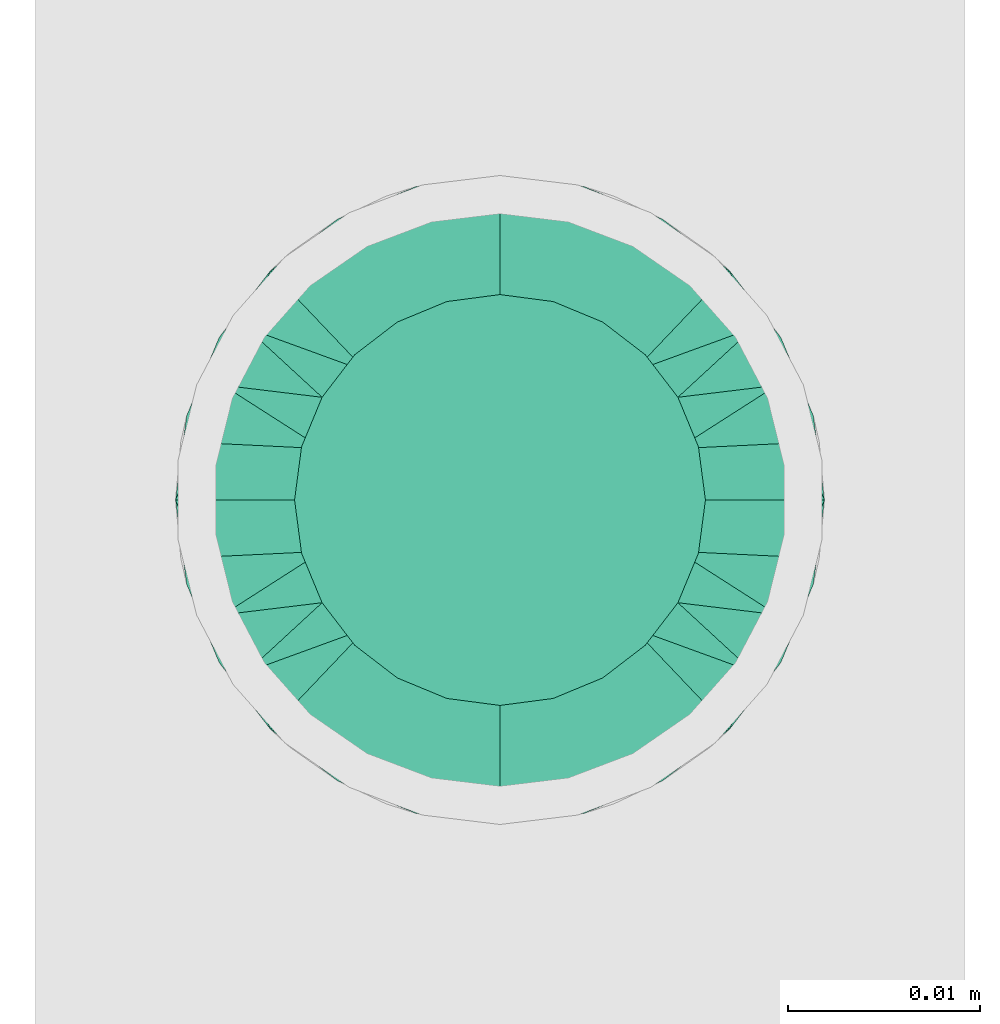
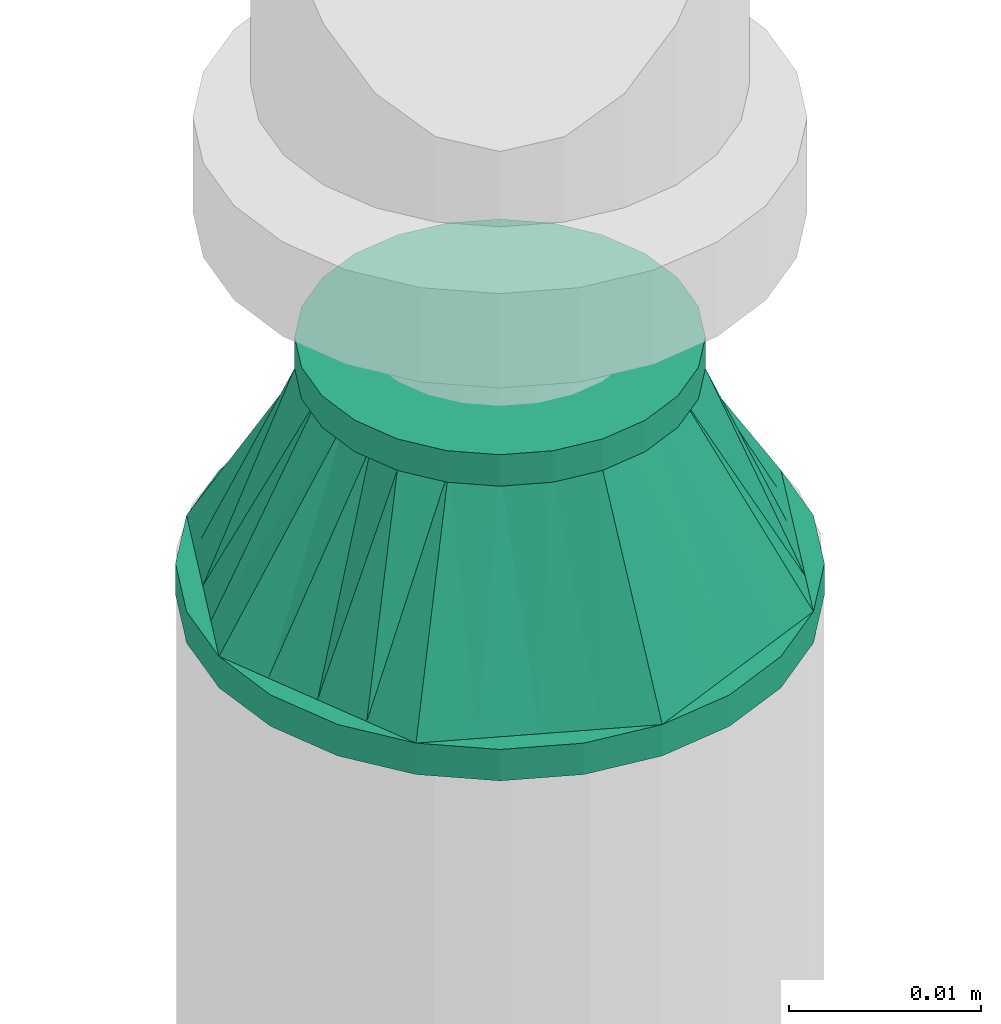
# One storey, part 40 of 63: 1 flow fitting.
"""IFC2X3 building model written with IfcOpenShell, lengths in millimetres."""

from ifc_helpers import new_model, entity, si_unit, converted_unit, derived_unit, direction, frame, origin_with_axes, place, context, subcontext, project, spatial, open_shell, surface_model, source, transform, mapped, type_object, element, save


model = new_model("IFC2X3")

# Units and contexts
model_context = context("Model", 3, precision=0.01, world=frame((0.0, 4.29681676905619e-09, 0.0)), true_north=direction((4.01073788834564e-13, 1.0)))
plan_context = context("Plan", 3, precision=0.01, world=frame((0.0, 4.29681676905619e-09, 0.0)), true_north=direction((4.01073788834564e-13, 1.0)))
body_context = subcontext(model_context, "Body", "Model", "MODEL_VIEW")
ifc_project = project(units=[converted_unit("PLANEANGLEUNIT", "DEGREE", entity("IfcPositiveLengthMeasure", 0.0174532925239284), si_unit("PLANEANGLEUNIT", "RADIAN"), dimensions=[0, 0, 0, 0, 0, 0, 0]), si_unit("AREAUNIT", "SQUARE_METRE"), si_unit("LENGTHUNIT", "METRE", prefix="MILLI"), si_unit("MASSUNIT", "GRAM", prefix="KILO"), si_unit("POWERUNIT", "WATT"), si_unit("PRESSUREUNIT", "PASCAL", prefix="KILO"), si_unit("FORCEUNIT", "NEWTON", prefix="KILO"), si_unit("ELECTRICVOLTAGEUNIT", "VOLT"), si_unit("ELECTRICCURRENTUNIT", "AMPERE"), si_unit("THERMODYNAMICTEMPERATUREUNIT", "DEGREE_CELSIUS"), si_unit("TIMEUNIT", "SECOND"), si_unit("VOLUMEUNIT", "CUBIC_METRE"), derived_unit("LINEARVELOCITYUNIT", [(si_unit("LENGTHUNIT", "METRE"), 1), (si_unit("TIMEUNIT", "SECOND"), -1)]), derived_unit("VOLUMETRICFLOWRATEUNIT", [(si_unit("VOLUMEUNIT", "CUBIC_METRE"), 1), (si_unit("TIMEUNIT", "SECOND"), -1)]), derived_unit("THERMALTRANSMITTANCEUNIT", [(si_unit("POWERUNIT", "WATT"), 1), (si_unit("THERMODYNAMICTEMPERATUREUNIT", "KELVIN"), -1), (si_unit("AREAUNIT", "SQUARE_METRE"), -1)]), derived_unit("SOUNDPRESSUREUNIT", [(si_unit("PRESSUREUNIT", "PASCAL"), 1)])], contexts=[model_context, plan_context])

# Site, building, storey
site_placement = place(None, frame((0.0, -4.29681676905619e-09, 0.0), z_axis=(0.0, 0.0, 1.0), x_axis=(1.0, 0.0, 0.0)))
site = spatial("IfcSite", under=ifc_project, at=site_placement, CompositionType="ELEMENT")
building_placement = place(site_placement, frame((0.0, 4.29681676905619e-09, 0.0), z_axis=(0.0, 0.0, 1.0), x_axis=(1.0, 0.0, 0.0)))
building = spatial("IfcBuilding", under=site, at=building_placement, Name="mc-building", CompositionType="ELEMENT")
storey_placement = place(building_placement, frame((0.0, 0.0, 207370.0), z_axis=(0.0, 0.0, 1.0), x_axis=(1.0, 0.0, 0.0)))
storey = spatial("IfcBuildingStorey", under=building, at=storey_placement, Name="Nivå E", CompositionType="ELEMENT", Elevation=207370.0)

# Flow fitting
pipe_fitting_type = type_object("IfcPipeFittingType", Name="magi_pipe_fe_reducer_centric_short_NOR", PredefinedType="TRANSITION")
shared_shape = source(origin_with_axes(), body_context, "Body", "SurfaceModel", [
    surface_model("IfcShellBasedSurfaceModel", [(14.4, 5.35, -9.26647), (14.4, 0.0, -10.7), (14.4, 2.76936, -10.33541), (14.4, 10.33541, -2.76936), (14.4, 7.56604, -7.56604), (14.4, -10.33541, -2.76936), (14.4, 9.26647, -5.35), (14.4, 0.0, 10.7), (14.4, -5.35, -9.26647), (14.4, -2.76936, -10.33541), (14.4, -7.56604, -7.56604), (14.4, -9.26647, -5.35), (14.4, 10.7, 0.0), (14.4, 10.33541, 2.76936), (14.4, 9.26647, 5.35), (14.4, 7.56604, 7.56604), (14.4, 2.76936, 10.33541), (14.4, 5.35, 9.26647), (14.4, -10.33541, 2.76936), (14.4, -7.56604, 7.56604), (14.4, -9.26647, 5.35), (14.4, -10.7, 0.0), (14.4, -2.76936, 10.33541), (14.4, -5.35, 9.26647), (12.4, 2.76936, 10.33541), (12.4, -10.33541, -2.76936), (12.4, 0.0, 10.7), (12.4, 5.35, 9.26647), (12.4, 7.56604, 7.56604), (12.4, 9.26647, 5.35), (12.4, 10.33541, 2.76936), (12.4, -10.33541, 2.76936), (12.4, -2.76936, 10.33541), (12.4, -7.56604, 7.56604), (12.4, -5.35, 9.26647), (12.4, -9.26647, 5.35), (12.4, -10.7, 0.0), (12.4, 10.33541, -2.76936), (12.4, 5.35, -9.26647), (12.4, 9.26647, -5.35), (12.4, 7.56604, -7.56604), (12.4, 2.76936, -10.33541), (12.4, -9.26647, -5.35), (12.4, -5.35, -9.26647), (12.4, -7.56604, -7.56604), (12.4, 0.0, -10.7), (12.4, -2.76936, -10.33541), (12.4, 10.7, 0.0), (-2.0, 11.9501, 11.9501), (-2.0, 0.0, 16.9), (-2.0, 4.37404, 16.32415), (-2.0, 8.45, 14.63583), (-2.0, 14.63583, 8.45), (-2.0, 16.32415, 4.37404), (-2.0, -16.32415, 4.37404), (-2.0, -8.45, 14.63583), (-2.0, -14.63583, 8.45), (-2.0, -11.9501, 11.9501), (-2.0, -4.37404, 16.32415), (-2.0, -16.32415, -4.37404), (-2.0, -16.9, 0.0), (-2.0, -8.45, -14.63583), (-2.0, 16.32415, -4.37404), (-2.0, 11.9501, -11.9501), (-2.0, 14.63583, -8.45), (-2.0, 8.45, -14.63583), (-2.0, 4.37404, -16.32415), (-2.0, 0.0, -16.9), (-2.0, -11.9501, -11.9501), (-2.0, -14.63583, -8.45), (-2.0, -4.37404, -16.32415), (-2.0, 16.9, 0.0), (0.0, 4.37404, -16.32415), (0.0, 8.45, -14.63583), (0.0, 11.9501, -11.9501), (0.0, 0.0, -16.9), (0.0, 16.32415, -4.37404), (0.0, 16.32415, 4.37404), (0.0, 14.63583, -8.45), (0.0, -8.45, -14.63583), (0.0, -4.37404, -16.32415), (0.0, -11.9501, -11.9501), (0.0, -16.32415, -4.37404), (0.0, -14.63583, -8.45), (0.0, -16.32415, 4.37404), (0.0, 16.9, 0.0), (0.0, 14.63583, 8.45), (0.0, 11.9501, 11.9501), (0.0, 4.37404, 16.32415), (0.0, 8.45, 14.63583), (0.0, 0.0, 16.9), (0.0, -14.63583, 8.45), (0.0, -16.9, 0.0), (0.0, -8.45, 14.63583), (0.0, -11.9501, 11.9501), (0.0, -4.37404, 16.32415), (12.4, 9.3625, -2.31662), (0.0, 14.42505, -5.97505), (0.0, 15.66253, -2.98753), (12.4, -6.6875, -6.94985), (0.0, -13.18758, -8.96258), (0.0, 2.98753, -15.66253), (12.4, 0.0, -9.26647), (12.4, 6.6875, -6.94985), (0.0, 8.96258, -13.18758), (12.4, -9.3625, -2.31662), (0.0, -15.66253, -2.98753), (0.0, -14.42505, -5.97505), (0.0, 5.97505, -14.42505), (0.0, -2.98753, -15.66253), (0.0, -8.96258, -13.18758), (0.0, 13.18758, -8.96258), (12.4, 8.025, -4.63324), (12.4, -2.675, -9.26647), (12.4, 2.675, -9.26647), (0.0, -5.97505, -14.42505), (12.4, -8.025, -4.63324), (12.4, -9.3625, 2.31662), (0.0, -14.42505, 5.97505), (0.0, -15.66253, 2.98753), (12.4, 6.6875, 6.94985), (0.0, 13.18758, 8.96258), (0.0, -2.98753, 15.66253), (12.4, 0.0, 9.26647), (12.4, -6.6875, 6.94985), (0.0, -8.96258, 13.18758), (12.4, 9.3625, 2.31662), (0.0, 15.66253, 2.98753), (0.0, 14.42505, 5.97505), (0.0, -5.97505, 14.42505), (0.0, 2.98753, 15.66253), (0.0, 8.96258, 13.18758), (0.0, -13.18758, 8.96258), (12.4, -8.025, 4.63324), (12.4, 2.675, 9.26647), (12.4, -2.675, 9.26647), (0.0, 5.97505, 14.42505), (12.4, 8.025, 4.63324)], [open_shell([[[0, 1, 2]], [[3, 0, 4]], [[5, 0, 3]], [[3, 4, 6]], [[7, 5, 3]], [[1, 8, 9]], [[1, 0, 8]], [[10, 5, 11]], [[5, 10, 8]], [[0, 5, 8]], [[3, 12, 13]], [[13, 14, 15]], [[13, 15, 16]], [[7, 3, 16]], [[16, 15, 17]], [[7, 18, 5]], [[18, 19, 20]], [[21, 5, 18]], [[19, 22, 23]], [[22, 19, 18]], [[7, 22, 18]], [[13, 16, 3]], [[24, 25, 26]], [[27, 25, 24]], [[28, 29, 30]], [[28, 25, 27]], [[31, 26, 25]], [[32, 33, 34]], [[33, 32, 31]], [[33, 31, 35]], [[32, 26, 31]], [[31, 25, 36]], [[30, 37, 28]], [[25, 28, 37]], [[38, 37, 39]], [[37, 38, 25]], [[38, 39, 40]], [[41, 25, 38]], [[42, 43, 44]], [[43, 42, 25]], [[43, 45, 46]], [[43, 25, 41]], [[41, 45, 43]], [[37, 30, 47]], [[25, 5, 36]], [[42, 11, 25]], [[8, 44, 43]], [[42, 44, 10]], [[9, 43, 46]], [[25, 11, 5]], [[5, 21, 36]], [[9, 8, 43]], [[10, 44, 8]], [[10, 11, 42]], [[1, 9, 46]], [[46, 45, 1]], [[41, 2, 45]], [[38, 0, 41]], [[6, 40, 39]], [[38, 40, 4]], [[3, 39, 37]], [[38, 4, 0]], [[0, 2, 41]], [[12, 3, 37]], [[6, 39, 3]], [[6, 4, 40]], [[47, 12, 37]], [[45, 2, 1]], [[30, 13, 47]], [[29, 14, 30]], [[17, 28, 27]], [[29, 28, 15]], [[16, 27, 24]], [[30, 14, 13]], [[13, 12, 47]], [[16, 17, 27]], [[15, 28, 17]], [[15, 14, 29]], [[7, 16, 24]], [[24, 26, 7]], [[32, 22, 26]], [[34, 23, 32]], [[20, 33, 35]], [[34, 33, 19]], [[18, 35, 31]], [[34, 19, 23]], [[23, 22, 32]], [[21, 18, 31]], [[20, 35, 18]], [[20, 19, 33]], [[36, 21, 31]], [[26, 22, 7]], [[48, 49, 50]], [[48, 50, 51]], [[48, 52, 53]], [[48, 53, 49]], [[49, 53, 54]], [[55, 56, 57]], [[55, 58, 49]], [[56, 55, 49]], [[49, 54, 56]], [[54, 59, 60]], [[54, 53, 61]], [[53, 62, 63]], [[63, 62, 64]], [[63, 65, 66]], [[61, 53, 63]], [[67, 63, 66]], [[59, 68, 69]], [[68, 59, 61]], [[61, 67, 70]], [[59, 54, 61]], [[63, 67, 61]], [[53, 71, 62]], [[72, 73, 74]], [[75, 72, 74]], [[74, 76, 77]], [[76, 74, 78]], [[74, 77, 79]], [[75, 79, 80]], [[75, 74, 79]], [[81, 82, 83]], [[82, 81, 79]], [[79, 84, 82]], [[77, 76, 85]], [[77, 86, 87]], [[77, 87, 88]], [[88, 84, 79]], [[88, 87, 89]], [[84, 88, 90]], [[90, 91, 84]], [[92, 82, 84]], [[91, 93, 94]], [[91, 90, 93]], [[93, 90, 95]], [[79, 77, 88]], [[59, 82, 60]], [[69, 83, 59]], [[79, 68, 61]], [[69, 68, 81]], [[80, 61, 70]], [[59, 83, 82]], [[82, 92, 60]], [[80, 79, 61]], [[81, 68, 79]], [[81, 83, 69]], [[75, 80, 70]], [[70, 67, 75]], [[66, 72, 67]], [[65, 73, 66]], [[78, 63, 64]], [[65, 63, 74]], [[76, 64, 62]], [[65, 74, 73]], [[73, 72, 66]], [[85, 76, 62]], [[78, 64, 76]], [[78, 74, 63]], [[71, 85, 62]], [[67, 72, 75]], [[53, 77, 71]], [[52, 86, 53]], [[89, 48, 51]], [[52, 48, 87]], [[88, 51, 50]], [[53, 86, 77]], [[77, 85, 71]], [[88, 89, 51]], [[87, 48, 89]], [[87, 86, 52]], [[90, 88, 50]], [[50, 49, 90]], [[58, 95, 49]], [[55, 93, 58]], [[91, 57, 56]], [[55, 57, 94]], [[84, 56, 54]], [[55, 94, 93]], [[93, 95, 58]], [[92, 84, 54]], [[91, 56, 84]], [[91, 94, 57]], [[60, 92, 54]], [[49, 95, 90]], [[27, 34, 47]], [[47, 34, 43]], [[43, 38, 47]], [[43, 34, 36]], [[90, 87, 94]], [[92, 94, 87]], [[87, 74, 92]], [[75, 92, 74]], [[81, 92, 75]], [[74, 87, 85]], [[96, 97, 98]], [[81, 99, 100]], [[101, 102, 75]], [[98, 85, 47]], [[74, 103, 104]], [[104, 103, 38]], [[105, 106, 107]], [[38, 108, 104]], [[102, 109, 75]], [[110, 99, 81]], [[47, 96, 98]], [[103, 111, 112]], [[109, 102, 113]], [[36, 92, 106]], [[102, 101, 114]], [[110, 115, 43]], [[96, 112, 97]], [[107, 116, 105]], [[36, 106, 105]], [[113, 115, 109]], [[43, 115, 113]], [[116, 107, 100]], [[108, 38, 114]], [[111, 103, 74]], [[111, 97, 112]], [[99, 110, 43]], [[116, 100, 99]], [[101, 108, 114]], [[117, 118, 119]], [[87, 120, 121]], [[122, 123, 90]], [[119, 92, 36]], [[94, 124, 125]], [[125, 124, 34]], [[126, 127, 128]], [[34, 129, 125]], [[123, 130, 90]], [[131, 120, 87]], [[36, 117, 119]], [[124, 132, 133]], [[130, 123, 134]], [[47, 85, 127]], [[123, 122, 135]], [[131, 136, 27]], [[117, 133, 118]], [[128, 137, 126]], [[47, 127, 126]], [[134, 136, 130]], [[27, 136, 134]], [[137, 128, 121]], [[129, 34, 135]], [[132, 124, 94]], [[132, 118, 133]], [[120, 131, 27]], [[137, 121, 120]], [[122, 129, 135]]])]),
])
flow_fitting_placement = place(storey_placement, frame((728641.29045, 437211.81651, 3018.36794), z_axis=(1.0, 0.0, 0.0), x_axis=(0.0, 0.0, 1.0)))
element("IfcFlowFitting", 1, at=flow_fitting_placement, inside=storey, type_object=pipe_fitting_type, Name="magi_pipe_fe_reducer_centric_short_NOR", context=body_context, shape_type="MappedRepresentation", body=[
    mapped(shared_shape, transform((0.0, 0.0, 0.0), scale=1.0)),
])

save(model, "model.ifc")
